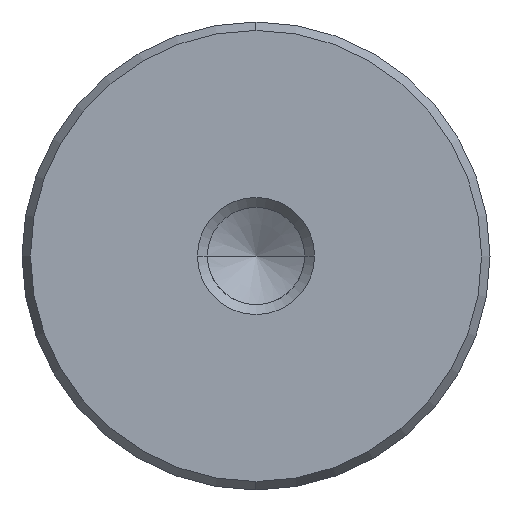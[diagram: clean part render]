
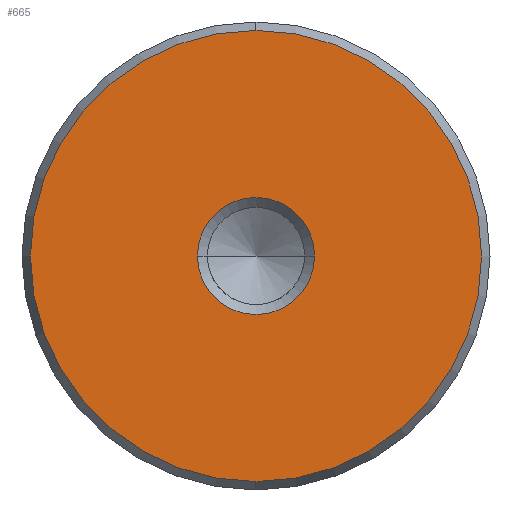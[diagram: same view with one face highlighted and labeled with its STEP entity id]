
A CAD part, left-side view. The second image highlights one B-rep face of the part: STEP entity #665.
In plain terms, the highlighted planar face has unit normal (-1, 0, 0).
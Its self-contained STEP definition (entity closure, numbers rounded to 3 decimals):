
#579=CARTESIAN_POINT('Vertex',(0.,0.,-15.423)) ;
#582=CARTESIAN_POINT('Axis2P3D Location',(0.,0.,0.)) ;
#586=CARTESIAN_POINT('Vertex',(0.,15.423,0.)) ;
#589=CARTESIAN_POINT('Axis2P3D Location',(0.,0.,0.)) ;
#593=CARTESIAN_POINT('Vertex',(0.,0.,15.423)) ;
#615=CARTESIAN_POINT('Axis2P3D Location',(0.,0.,0.)) ;
#619=CARTESIAN_POINT('Vertex',(0.,-15.423,0.)) ;
#622=CARTESIAN_POINT('Axis2P3D Location',(0.,0.,0.)) ;
#636=CARTESIAN_POINT('Axis2P3D Location',(0.,0.,0.)) ;
#647=CARTESIAN_POINT('Axis2P3D Location',(0.,0.,0.)) ;
#651=CARTESIAN_POINT('Vertex',(0.,4.,0.)) ;
#653=CARTESIAN_POINT('Vertex',(0.,-4.,0.)) ;
#656=CARTESIAN_POINT('Axis2P3D Location',(0.,0.,0.)) ;
#583=DIRECTION('Axis2P3D Direction',(1.,0.,-0.)) ;
#590=DIRECTION('Axis2P3D Direction',(1.,0.,-0.)) ;
#616=DIRECTION('Axis2P3D Direction',(1.,0.,-0.)) ;
#623=DIRECTION('Axis2P3D Direction',(1.,0.,-0.)) ;
#637=DIRECTION('Axis2P3D Direction',(1.,0.,-0.)) ;
#638=DIRECTION('Axis2P3D XDirection',(-0.,0.,-1.)) ;
#648=DIRECTION('Axis2P3D Direction',(1.,0.,-0.)) ;
#657=DIRECTION('Axis2P3D Direction',(1.,0.,-0.)) ;
#584=AXIS2_PLACEMENT_3D('Circle Axis2P3D',#582,#583,$) ;
#591=AXIS2_PLACEMENT_3D('Circle Axis2P3D',#589,#590,$) ;
#617=AXIS2_PLACEMENT_3D('Circle Axis2P3D',#615,#616,$) ;
#624=AXIS2_PLACEMENT_3D('Circle Axis2P3D',#622,#623,$) ;
#639=AXIS2_PLACEMENT_3D('Plane Axis2P3D',#636,#637,#638) ;
#649=AXIS2_PLACEMENT_3D('Circle Axis2P3D',#647,#648,$) ;
#658=AXIS2_PLACEMENT_3D('Circle Axis2P3D',#656,#657,$) ;
#642=ORIENTED_EDGE('',*,*,#588,.F.) ;
#643=ORIENTED_EDGE('',*,*,#626,.F.) ;
#644=ORIENTED_EDGE('',*,*,#621,.F.) ;
#645=ORIENTED_EDGE('',*,*,#595,.F.) ;
#662=ORIENTED_EDGE('',*,*,#655,.T.) ;
#663=ORIENTED_EDGE('',*,*,#660,.T.) ;
#664=FACE_BOUND('',#661,.T.) ;
#665=ADVANCED_FACE('720-32x315',(#646,#664),#640,.F.) ;
#585=CIRCLE('generated circle',#584,15.423) ;
#592=CIRCLE('generated circle',#591,15.423) ;
#618=CIRCLE('generated circle',#617,15.423) ;
#625=CIRCLE('generated circle',#624,15.423) ;
#650=CIRCLE('generated circle',#649,4.) ;
#659=CIRCLE('generated circle',#658,4.) ;
#588=EDGE_CURVE('',#580,#587,#585,.T.) ;
#595=EDGE_CURVE('',#587,#594,#592,.T.) ;
#621=EDGE_CURVE('',#594,#620,#618,.T.) ;
#626=EDGE_CURVE('',#620,#580,#625,.T.) ;
#655=EDGE_CURVE('',#652,#654,#650,.T.) ;
#660=EDGE_CURVE('',#654,#652,#659,.T.) ;
#641=EDGE_LOOP('',(#642,#643,#644,#645)) ;
#661=EDGE_LOOP('',(#662,#663)) ;
#646=FACE_OUTER_BOUND('',#641,.T.) ;
#640=PLANE('Plane',#639) ;
#580=VERTEX_POINT('',#579) ;
#587=VERTEX_POINT('',#586) ;
#594=VERTEX_POINT('',#593) ;
#620=VERTEX_POINT('',#619) ;
#652=VERTEX_POINT('',#651) ;
#654=VERTEX_POINT('',#653) ;
